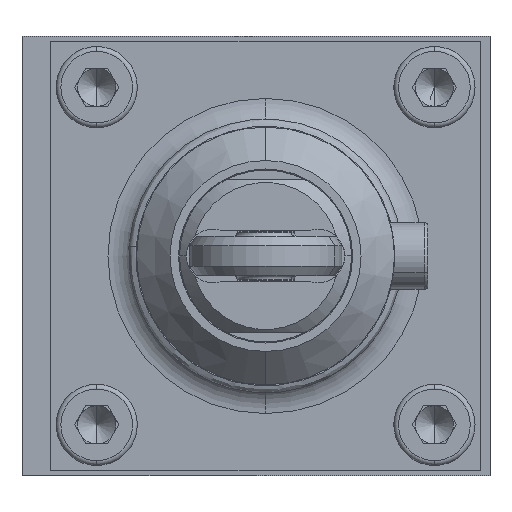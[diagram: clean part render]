
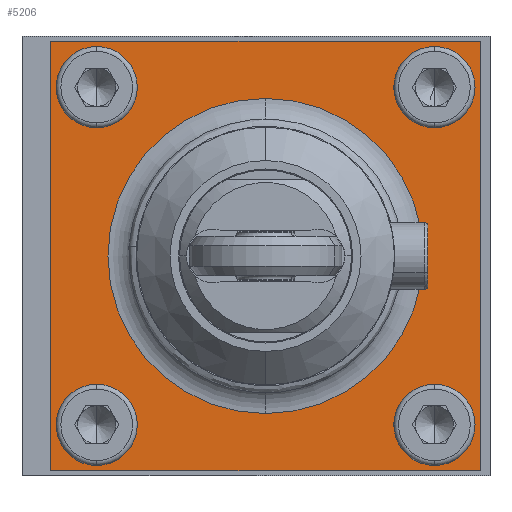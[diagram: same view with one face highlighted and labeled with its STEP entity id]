
A CAD part, left-side view. The second image highlights one B-rep face of the part: STEP entity #5206.
In plain terms, the highlighted planar face has unit normal (-1, 0, 0).
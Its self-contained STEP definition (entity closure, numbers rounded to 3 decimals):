
#275 = DIRECTION ( 'NONE',  ( 0., 1., 0. ) ) ;
#437 = VERTEX_POINT ( 'NONE', #35409 ) ;
#1416 = DIRECTION ( 'NONE',  ( 0., 0., -1. ) ) ;
#1555 = AXIS2_PLACEMENT_3D ( 'NONE', #31377, #14777, #34155 ) ;
#2068 = CARTESIAN_POINT ( 'NONE',  ( -11., -14.5, 0. ) ) ;
#2385 = CIRCLE ( 'NONE', #17194, 4.25 ) ;
#2453 = DIRECTION ( 'NONE',  ( 0., 0., -1. ) ) ;
#2668 = DIRECTION ( 'NONE',  ( 0., 0., -1. ) ) ;
#3501 = VERTEX_POINT ( 'NONE', #25598 ) ;
#3523 = ORIENTED_EDGE ( 'NONE', *, *, #5671, .F. ) ;
#3545 = ORIENTED_EDGE ( 'NONE', *, *, #4677, .F. ) ;
#3700 = DIRECTION ( 'NONE',  ( 1., 0., 0. ) ) ;
#4007 = DIRECTION ( 'NONE',  ( 0., -1., 0. ) ) ;
#4130 = EDGE_CURVE ( 'NONE', #13377, #25883, #34442, .T. ) ;
#4174 = EDGE_CURVE ( 'NONE', #5100, #4532, #2385, .T. ) ;
#4356 = FACE_BOUND ( 'NONE', #8673, .T. ) ;
#4532 = VERTEX_POINT ( 'NONE', #29653 ) ;
#4672 = ORIENTED_EDGE ( 'NONE', *, *, #4130, .F. ) ;
#4677 = EDGE_CURVE ( 'NONE', #30850, #11359, #13540, .T. ) ;
#4851 = DIRECTION ( 'NONE',  ( 0., 0., 1. ) ) ;
#5100 = VERTEX_POINT ( 'NONE', #9583 ) ;
#5170 = ORIENTED_EDGE ( 'NONE', *, *, #30711, .F. ) ;
#5206 = ADVANCED_FACE ( 'NONE', ( #11748, #18227, #4356, #19094, #32937, #10838 ), #7527, .F. ) ;
#5671 = EDGE_CURVE ( 'NONE', #8731, #29504, #9073, .T. ) ;
#5774 = EDGE_CURVE ( 'NONE', #7856, #13377, #14212, .T. ) ;
#5912 = LINE ( 'NONE', #19677, #27128 ) ;
#6561 = EDGE_LOOP ( 'NONE', ( #12324, #5170 ) ) ;
#7122 = EDGE_CURVE ( 'NONE', #17131, #34250, #13328, .T. ) ;
#7245 = DIRECTION ( 'NONE',  ( 1., 0., 0. ) ) ;
#7297 = CARTESIAN_POINT ( 'NONE',  ( -11., 16.68, 17.68 ) ) ;
#7527 = PLANE ( 'NONE',  #22116 ) ;
#7856 = VERTEX_POINT ( 'NONE', #31143 ) ;
#7932 = CARTESIAN_POINT ( 'NONE',  ( -11., -18.68, 21.93 ) ) ;
#8042 = ORIENTED_EDGE ( 'NONE', *, *, #7122, .T. ) ;
#8259 = ORIENTED_EDGE ( 'NONE', *, *, #31912, .F. ) ;
#8312 = CARTESIAN_POINT ( 'NONE',  ( -11., 16.68, 21.93 ) ) ;
#8427 = EDGE_LOOP ( 'NONE', ( #15955, #4672, #9886, #12681 ) ) ;
#8673 = EDGE_LOOP ( 'NONE', ( #3545, #8259 ) ) ;
#8731 = VERTEX_POINT ( 'NONE', #7932 ) ;
#9073 = CIRCLE ( 'NONE', #12647, 4.25 ) ;
#9529 = CARTESIAN_POINT ( 'NONE',  ( -11., 16.68, 17.68 ) ) ;
#9583 = CARTESIAN_POINT ( 'NONE',  ( -11., -18.68, -13.43 ) ) ;
#9764 = ORIENTED_EDGE ( 'NONE', *, *, #30984, .F. ) ;
#9859 = EDGE_LOOP ( 'NONE', ( #3523, #30596 ) ) ;
#9886 = ORIENTED_EDGE ( 'NONE', *, *, #5774, .F. ) ;
#10054 = CARTESIAN_POINT ( 'NONE',  ( -11., 21.5, 22.5 ) ) ;
#10055 = DIRECTION ( 'NONE',  ( 0., 0., -1. ) ) ;
#10178 = CARTESIAN_POINT ( 'NONE',  ( -11., 21.5, 0. ) ) ;
#10838 = FACE_OUTER_BOUND ( 'NONE', #8427, .T. ) ;
#11359 = VERTEX_POINT ( 'NONE', #28815 ) ;
#11748 = FACE_BOUND ( 'NONE', #6561, .T. ) ;
#11948 = DIRECTION ( 'NONE',  ( -1., 0., 0. ) ) ;
#12324 = ORIENTED_EDGE ( 'NONE', *, *, #4174, .F. ) ;
#12331 = DIRECTION ( 'NONE',  ( 0., 0., -1. ) ) ;
#12362 = VECTOR ( 'NONE', #26784, 1000. ) ;
#12647 = AXIS2_PLACEMENT_3D ( 'NONE', #35586, #19039, #2453 ) ;
#12676 = VECTOR ( 'NONE', #4007, 1000. ) ;
#12681 = ORIENTED_EDGE ( 'NONE', *, *, #28982, .F. ) ;
#13079 = CIRCLE ( 'NONE', #1555, 4.25 ) ;
#13328 = CIRCLE ( 'NONE', #24977, 16.5 ) ;
#13377 = VERTEX_POINT ( 'NONE', #32532 ) ;
#13540 = CIRCLE ( 'NONE', #28128, 4.25 ) ;
#13824 = AXIS2_PLACEMENT_3D ( 'NONE', #9529, #28889, #12331 ) ;
#13915 = CARTESIAN_POINT ( 'NONE',  ( -11., -14.5, -22.5 ) ) ;
#14212 = LINE ( 'NONE', #13915, #35418 ) ;
#14246 = EDGE_CURVE ( 'NONE', #29504, #8731, #32994, .T. ) ;
#14777 = DIRECTION ( 'NONE',  ( -1., 0., 0. ) ) ;
#15955 = ORIENTED_EDGE ( 'NONE', *, *, #19205, .F. ) ;
#16030 = DIRECTION ( 'NONE',  ( -1., 0., 0. ) ) ;
#16917 = VERTEX_POINT ( 'NONE', #24574 ) ;
#17131 = VERTEX_POINT ( 'NONE', #33763 ) ;
#17194 = AXIS2_PLACEMENT_3D ( 'NONE', #35795, #19274, #2668 ) ;
#17396 = ORIENTED_EDGE ( 'NONE', *, *, #22267, .F. ) ;
#17991 = DIRECTION ( 'NONE',  ( -1., 0., 0. ) ) ;
#18227 = FACE_BOUND ( 'NONE', #9859, .T. ) ;
#18308 = EDGE_CURVE ( 'NONE', #34250, #17131, #22277, .T. ) ;
#19039 = DIRECTION ( 'NONE',  ( -1., 0., 0. ) ) ;
#19094 = FACE_BOUND ( 'NONE', #27554, .T. ) ;
#19205 = EDGE_CURVE ( 'NONE', #25883, #16917, #20082, .T. ) ;
#19274 = DIRECTION ( 'NONE',  ( -1., 0., 0. ) ) ;
#19382 = CARTESIAN_POINT ( 'NONE',  ( -11., -18.68, 13.43 ) ) ;
#19559 = DIRECTION ( 'NONE',  ( 0., 0., -1. ) ) ;
#19677 = CARTESIAN_POINT ( 'NONE',  ( -11., -23.5, 0. ) ) ;
#20082 = LINE ( 'NONE', #23397, #12676 ) ;
#20112 = AXIS2_PLACEMENT_3D ( 'NONE', #28508, #11948, #31298 ) ;
#20339 = CARTESIAN_POINT ( 'NONE',  ( -11., -1., 0. ) ) ;
#20537 = CIRCLE ( 'NONE', #20112, 4.25 ) ;
#20912 = CARTESIAN_POINT ( 'NONE',  ( -11., -1., -16.5 ) ) ;
#21040 = AXIS2_PLACEMENT_3D ( 'NONE', #23829, #7245, #26601 ) ;
#21426 = DIRECTION ( 'NONE',  ( 1., 0., 0. ) ) ;
#22116 = AXIS2_PLACEMENT_3D ( 'NONE', #2068, #21426, #4851 ) ;
#22267 = EDGE_CURVE ( 'NONE', #437, #3501, #13079, .T. ) ;
#22277 = CIRCLE ( 'NONE', #21040, 16.5 ) ;
#23102 = DIRECTION ( 'NONE',  ( 0., 0., 1. ) ) ;
#23397 = CARTESIAN_POINT ( 'NONE',  ( -11., -14.5, 22.5 ) ) ;
#23398 = CIRCLE ( 'NONE', #13824, 4.25 ) ;
#23431 = EDGE_LOOP ( 'NONE', ( #8042, #31358 ) ) ;
#23829 = CARTESIAN_POINT ( 'NONE',  ( -11., -1., 0. ) ) ;
#24574 = CARTESIAN_POINT ( 'NONE',  ( -11., -23.5, 22.5 ) ) ;
#24977 = AXIS2_PLACEMENT_3D ( 'NONE', #20339, #3700, #23102 ) ;
#25598 = CARTESIAN_POINT ( 'NONE',  ( -11., 16.68, -21.93 ) ) ;
#25883 = VERTEX_POINT ( 'NONE', #10054 ) ;
#26601 = DIRECTION ( 'NONE',  ( 0., 0., 1. ) ) ;
#26660 = DIRECTION ( 'NONE',  ( -1., 0., 0. ) ) ;
#26784 = DIRECTION ( 'NONE',  ( 0., 0., 1. ) ) ;
#27128 = VECTOR ( 'NONE', #19559, 1000. ) ;
#27554 = EDGE_LOOP ( 'NONE', ( #17396, #9764 ) ) ;
#27952 = AXIS2_PLACEMENT_3D ( 'NONE', #32631, #16030, #35390 ) ;
#28128 = AXIS2_PLACEMENT_3D ( 'NONE', #7297, #26660, #10055 ) ;
#28508 = CARTESIAN_POINT ( 'NONE',  ( -11., 16.68, -17.68 ) ) ;
#28815 = CARTESIAN_POINT ( 'NONE',  ( -11., 16.68, 13.43 ) ) ;
#28889 = DIRECTION ( 'NONE',  ( -1., 0., 0. ) ) ;
#28982 = EDGE_CURVE ( 'NONE', #16917, #7856, #5912, .T. ) ;
#29133 = CIRCLE ( 'NONE', #27952, 4.25 ) ;
#29504 = VERTEX_POINT ( 'NONE', #19382 ) ;
#29653 = CARTESIAN_POINT ( 'NONE',  ( -11., -18.68, -21.93 ) ) ;
#30596 = ORIENTED_EDGE ( 'NONE', *, *, #14246, .F. ) ;
#30711 = EDGE_CURVE ( 'NONE', #4532, #5100, #29133, .T. ) ;
#30850 = VERTEX_POINT ( 'NONE', #8312 ) ;
#30984 = EDGE_CURVE ( 'NONE', #3501, #437, #20537, .T. ) ;
#31143 = CARTESIAN_POINT ( 'NONE',  ( -11., -23.5, -22.5 ) ) ;
#31298 = DIRECTION ( 'NONE',  ( 0., 0., -1. ) ) ;
#31358 = ORIENTED_EDGE ( 'NONE', *, *, #18308, .T. ) ;
#31377 = CARTESIAN_POINT ( 'NONE',  ( -11., 16.68, -17.68 ) ) ;
#31912 = EDGE_CURVE ( 'NONE', #11359, #30850, #23398, .T. ) ;
#32532 = CARTESIAN_POINT ( 'NONE',  ( -11., 21.5, -22.5 ) ) ;
#32631 = CARTESIAN_POINT ( 'NONE',  ( -11., -18.68, -17.68 ) ) ;
#32937 = FACE_BOUND ( 'NONE', #23431, .T. ) ;
#32994 = CIRCLE ( 'NONE', #35629, 4.25 ) ;
#33763 = CARTESIAN_POINT ( 'NONE',  ( -11., -1., 16.5 ) ) ;
#34155 = DIRECTION ( 'NONE',  ( 0., 0., -1. ) ) ;
#34250 = VERTEX_POINT ( 'NONE', #20912 ) ;
#34442 = LINE ( 'NONE', #10178, #12362 ) ;
#34556 = CARTESIAN_POINT ( 'NONE',  ( -11., -18.68, 17.68 ) ) ;
#35390 = DIRECTION ( 'NONE',  ( 0., 0., -1. ) ) ;
#35409 = CARTESIAN_POINT ( 'NONE',  ( -11., 16.68, -13.43 ) ) ;
#35418 = VECTOR ( 'NONE', #275, 1000. ) ;
#35586 = CARTESIAN_POINT ( 'NONE',  ( -11., -18.68, 17.68 ) ) ;
#35629 = AXIS2_PLACEMENT_3D ( 'NONE', #34556, #17991, #1416 ) ;
#35795 = CARTESIAN_POINT ( 'NONE',  ( -11., -18.68, -17.68 ) ) ;
